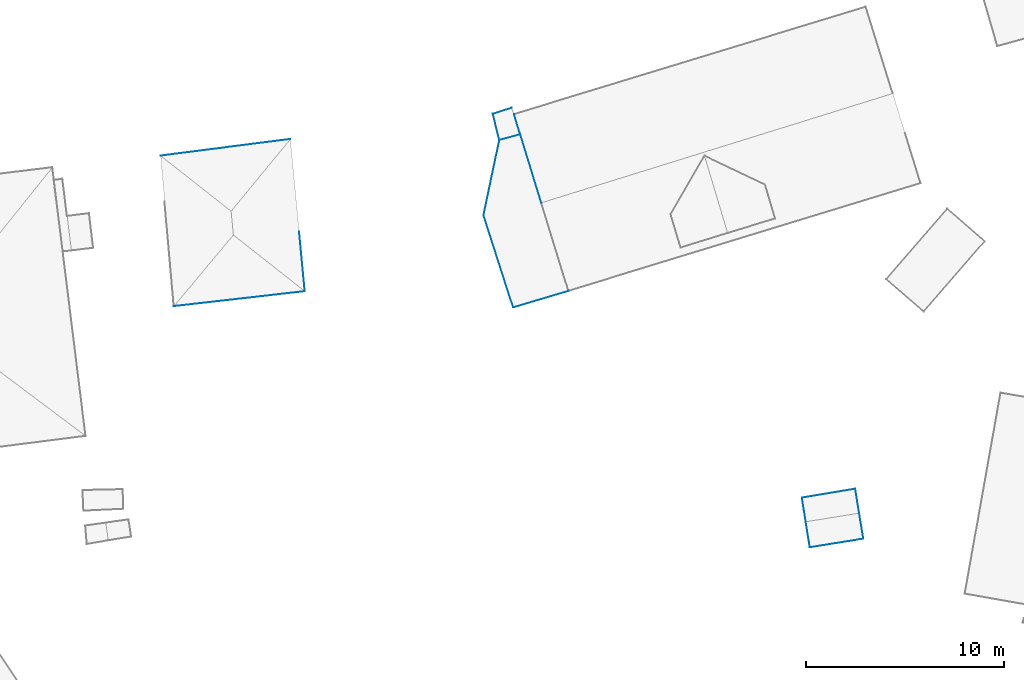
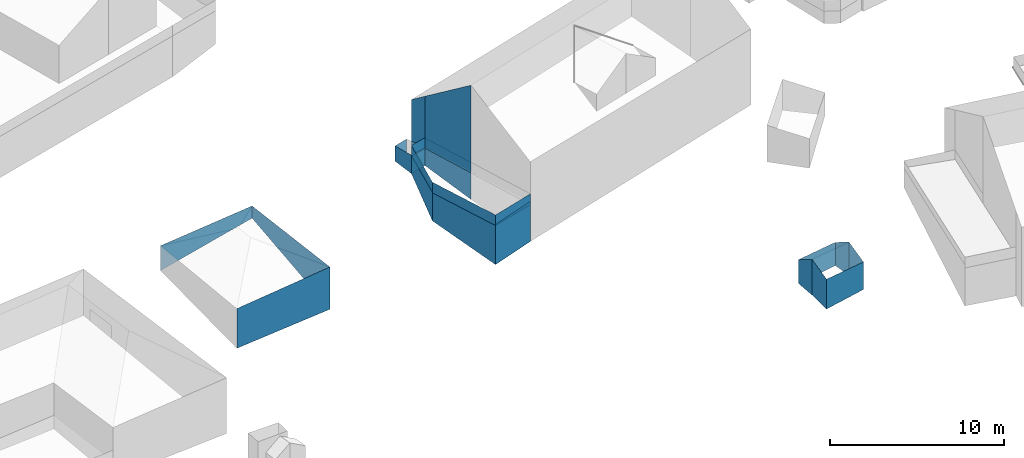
# Not in any storey, part 5 of 57: 35 walls.
"""IFC4 building model written with IfcOpenShell, lengths in metres."""

from ifc_helpers import new_model, entity, si_unit, converted_unit, origin, place, context, subcontext, project, spatial, face_set, surface_model, element, save


model = new_model("IFC4")

# Units and contexts
model_context = context("Model", 3, precision=1e-05, world=origin())
body_context = subcontext(model_context, "Body", "Model", "MODEL_VIEW")
ifc_project = project(units=[converted_unit("PLANEANGLEUNIT", "DEGREE", entity("IfcRatioMeasure", 0.0174532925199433), si_unit("PLANEANGLEUNIT", "RADIAN"), dimensions=[0, 0, 0, 0, 0, 0, 0]), si_unit("AREAUNIT", "SQUARE_METRE"), si_unit("LENGTHUNIT", "METRE")], contexts=[model_context])

# Site, building
site_placement = place(None, origin())
site = spatial("IfcSite", under=ifc_project, at=site_placement, Name="_site")
building_1_placement = place(site_placement, origin())
building_1 = spatial("IfcBuilding", under=site, at=building_1_placement, Name="_building")

# Walls
wall_1_placement = place(building_1_placement, origin())
element("IfcWall", 1, at=wall_1_placement, inside=building_1, Name="Wall", PredefinedType="NOTDEFINED", context=body_context, shape_type="SurfaceModel", body=[
    surface_model("IfcFaceBasedSurfaceModel", [(124.001, 109.289, 120.52), (122.94, 112.745, 118.02), (122.94, 112.745, 114.36), (124.001, 109.289, 114.36)], [face_set([[[0, 1, 2, 3]]])]),
])
wall_2_placement = place(building_1_placement, origin())
element("IfcWall", 2, at=wall_2_placement, inside=building_1, Name="Wall", PredefinedType="NOTDEFINED", context=body_context, shape_type="SurfaceModel", body=[
    surface_model("IfcFaceBasedSurfaceModel", [(122.623, 113.763, 114.36), (122.94, 112.745, 114.43), (122.94, 112.745, 113.157), (122.623, 113.763, 113.338)], [face_set([[[0, 1, 2, 3]]])]),
])
wall_3_placement = place(building_1_placement, origin())
element("IfcWall", 3, at=wall_3_placement, inside=building_1, Name="Wall", PredefinedType="NOTDEFINED", context=body_context, shape_type="SurfaceModel", body=[
    surface_model("IfcFaceBasedSurfaceModel", [(122.94, 112.745, 114.36), (124.001, 109.289, 114.36), (124.001, 109.289, 112.498), (122.94, 112.745, 113.157)], [face_set([[[0, 1, 2, 3]]])]),
])
wall_4_placement = place(building_1_placement, origin())
element("IfcWall", 4, at=wall_4_placement, inside=building_1, Name="Wall", PredefinedType="NOTDEFINED", context=body_context, shape_type="SurfaceModel", body=[
    surface_model("IfcFaceBasedSurfaceModel", [(121.882, 112.46, 114.43), (121.553, 113.779, 114.39), (121.553, 113.779, 113.322), (121.882, 112.46, 113.124)], [face_set([[[0, 1, 2, 3]]])]),
])
wall_5_placement = place(building_1_placement, origin())
element("IfcWall", 5, at=wall_5_placement, inside=building_1, Name="Wall", PredefinedType="NOTDEFINED", context=body_context, shape_type="SurfaceModel", body=[
    surface_model("IfcFaceBasedSurfaceModel", [(122.94, 112.745, 118.02), (122.623, 113.763, 117.28), (122.623, 113.763, 113.338), (122.94, 112.745, 113.157)], [face_set([[[0, 1, 2, 3]]])]),
])
wall_6_placement = place(building_1_placement, origin())
element("IfcWall", 6, at=wall_6_placement, inside=building_1, Name="Wall", PredefinedType="NOTDEFINED", context=body_context, shape_type="SurfaceModel", body=[
    surface_model("IfcFaceBasedSurfaceModel", [(121.553, 113.779, 114.39), (122.501, 114.087, 114.36), (122.501, 114.087, 113.396), (121.553, 113.779, 113.322)], [face_set([[[0, 1, 2, 3]]])]),
])

# Building
building_2_placement = place(site_placement, origin())
building_2 = spatial("IfcBuilding", under=site, at=building_2_placement, Name="_building")

# Walls
wall_7_placement = place(building_2_placement, origin())
element("IfcWall", 7, at=wall_7_placement, inside=building_2, Name="Wall", PredefinedType="NOTDEFINED", context=body_context, shape_type="SurfaceModel", body=[
    surface_model("IfcFaceBasedSurfaceModel", [(121.882, 112.46, 114.36), (122.94, 112.745, 114.36), (122.94, 112.745, 113.157), (121.882, 112.46, 113.124)], [face_set([[[0, 1, 2, 3]]])]),
])
wall_8_placement = place(building_2_placement, origin())
element("IfcWall", 8, at=wall_8_placement, inside=building_2, Name="Wall", PredefinedType="NOTDEFINED", context=body_context, shape_type="SurfaceModel", body=[
    surface_model("IfcFaceBasedSurfaceModel", [(121.083, 108.666, 114.36), (121.882, 112.46, 114.36), (121.882, 112.46, 113.124), (121.083, 108.666, 112.39)], [face_set([[[0, 1, 2, 3]]])]),
])
wall_9_placement = place(building_2_placement, origin())
element("IfcWall", 9, at=wall_9_placement, inside=building_2, Name="Wall", PredefinedType="NOTDEFINED", context=body_context, shape_type="SurfaceModel", body=[
    surface_model("IfcFaceBasedSurfaceModel", [(122.585, 103.998, 114.36), (121.083, 108.666, 114.36), (121.083, 108.666, 112.39), (122.585, 103.998, 111.618)], [face_set([[[0, 1, 2, 3]]])]),
])
wall_10_placement = place(building_2_placement, origin())
element("IfcWall", 10, at=wall_10_placement, inside=building_2, Name="Wall", PredefinedType="NOTDEFINED", context=body_context, shape_type="SurfaceModel", body=[
    surface_model("IfcFaceBasedSurfaceModel", [(125.376, 104.833, 114.36), (122.585, 103.998, 114.36), (122.585, 103.998, 111.618), (125.376, 104.833, 111.765)], [face_set([[[0, 1, 2, 3]]])]),
])
wall_11_placement = place(building_2_placement, origin())
element("IfcWall", 11, at=wall_11_placement, inside=building_2, Name="Wall", PredefinedType="NOTDEFINED", context=body_context, shape_type="SurfaceModel", body=[
    surface_model("IfcFaceBasedSurfaceModel", [(122.94, 112.745, 114.43), (121.882, 112.46, 114.43), (121.882, 112.46, 113.124), (122.94, 112.745, 113.157)], [face_set([[[0, 1, 2, 3]]])]),
])
wall_12_placement = place(building_2_placement, origin())
element("IfcWall", 12, at=wall_12_placement, inside=building_2, Name="Wall", PredefinedType="NOTDEFINED", context=body_context, shape_type="SurfaceModel", body=[
    surface_model("IfcFaceBasedSurfaceModel", [(122.94, 112.745, 114.43), (124.001, 109.289, 114.491), (124.001, 109.289, 112.498), (122.94, 112.745, 113.157)], [face_set([[[0, 1, 2, 3]]])]),
])
wall_13_placement = place(building_2_placement, origin())
element("IfcWall", 13, at=wall_13_placement, inside=building_2, Name="Wall", PredefinedType="NOTDEFINED", context=body_context, shape_type="SurfaceModel", body=[
    surface_model("IfcFaceBasedSurfaceModel", [(121.882, 112.46, 114.43), (122.94, 112.745, 114.43), (122.94, 112.745, 113.157), (121.882, 112.46, 113.124)], [face_set([[[0, 1, 2, 3]]])]),
])
wall_14_placement = place(building_2_placement, origin())
element("IfcWall", 14, at=wall_14_placement, inside=building_2, Name="Wall", PredefinedType="NOTDEFINED", context=body_context, shape_type="SurfaceModel", body=[
    surface_model("IfcFaceBasedSurfaceModel", [(121.083, 108.666, 114.43), (121.882, 112.46, 114.43), (121.882, 112.46, 113.124), (121.083, 108.666, 112.39)], [face_set([[[0, 1, 2, 3]]])]),
])
wall_15_placement = place(building_2_placement, origin())
element("IfcWall", 15, at=wall_15_placement, inside=building_2, Name="Wall", PredefinedType="NOTDEFINED", context=body_context, shape_type="SurfaceModel", body=[
    surface_model("IfcFaceBasedSurfaceModel", [(122.585, 103.998, 114.45), (121.083, 108.666, 114.43), (121.083, 108.666, 112.39), (122.585, 103.998, 111.618)], [face_set([[[0, 1, 2, 3]]])]),
])
wall_16_placement = place(building_2_placement, origin())
element("IfcWall", 16, at=wall_16_placement, inside=building_2, Name="Wall", PredefinedType="NOTDEFINED", context=body_context, shape_type="SurfaceModel", body=[
    surface_model("IfcFaceBasedSurfaceModel", [(125.376, 104.833, 114.57), (122.585, 103.998, 114.45), (122.585, 103.998, 111.618), (125.376, 104.833, 111.765)], [face_set([[[0, 1, 2, 3]]])]),
])
wall_17_placement = place(building_2_placement, origin())
element("IfcWall", 17, at=wall_17_placement, inside=building_2, Name="Wall", PredefinedType="NOTDEFINED", context=body_context, shape_type="SurfaceModel", body=[
    surface_model("IfcFaceBasedSurfaceModel", [(122.94, 112.745, 114.36), (121.882, 112.46, 114.36), (121.882, 112.46, 115.11), (122.94, 112.745, 115.11)], [face_set([[[0, 1, 2, 3]]])]),
])
wall_18_placement = place(building_2_placement, origin())
element("IfcWall", 18, at=wall_18_placement, inside=building_2, Name="Wall", PredefinedType="NOTDEFINED", context=body_context, shape_type="SurfaceModel", body=[
    surface_model("IfcFaceBasedSurfaceModel", [(124.001, 109.289, 114.36), (122.94, 112.745, 114.36), (122.94, 112.745, 115.11), (124.001, 109.289, 115.11)], [face_set([[[0, 1, 2, 3]]])]),
])
wall_19_placement = place(building_2_placement, origin())
element("IfcWall", 19, at=wall_19_placement, inside=building_2, Name="Wall", PredefinedType="NOTDEFINED", context=body_context, shape_type="SurfaceModel", body=[
    surface_model("IfcFaceBasedSurfaceModel", [(122.585, 103.998, 114.36), (125.376, 104.833, 114.36), (125.376, 104.833, 115.11), (122.585, 103.998, 115.11)], [face_set([[[0, 1, 2, 3]]])]),
])
wall_20_placement = place(building_2_placement, origin())
element("IfcWall", 20, at=wall_20_placement, inside=building_2, Name="Wall", PredefinedType="NOTDEFINED", context=body_context, shape_type="SurfaceModel", body=[
    surface_model("IfcFaceBasedSurfaceModel", [(121.083, 108.666, 114.36), (122.585, 103.998, 114.36), (122.585, 103.998, 115.11), (121.083, 108.666, 115.11)], [face_set([[[0, 1, 2, 3]]])]),
])
wall_21_placement = place(building_2_placement, origin())
element("IfcWall", 21, at=wall_21_placement, inside=building_2, Name="Wall", PredefinedType="NOTDEFINED", context=body_context, shape_type="SurfaceModel", body=[
    surface_model("IfcFaceBasedSurfaceModel", [(121.882, 112.46, 114.36), (121.083, 108.666, 114.36), (121.083, 108.666, 115.11), (121.882, 112.46, 115.11)], [face_set([[[0, 1, 2, 3]]])]),
])
wall_22_placement = place(building_2_placement, origin())
element("IfcWall", 22, at=wall_22_placement, inside=building_2, Name="Wall", PredefinedType="NOTDEFINED", context=body_context, shape_type="SurfaceModel", body=[
    surface_model("IfcFaceBasedSurfaceModel", [(122.94, 112.745, 114.36), (121.882, 112.46, 114.36), (121.882, 112.46, 115.11), (122.94, 112.745, 115.11)], [face_set([[[0, 1, 2, 3]]])]),
])
wall_23_placement = place(building_2_placement, origin())
element("IfcWall", 23, at=wall_23_placement, inside=building_2, Name="Wall", PredefinedType="NOTDEFINED", context=body_context, shape_type="SurfaceModel", body=[
    surface_model("IfcFaceBasedSurfaceModel", [(124.001, 109.289, 114.36), (122.94, 112.745, 114.36), (122.94, 112.745, 115.11), (124.001, 109.289, 115.11)], [face_set([[[0, 1, 2, 3]]])]),
])
wall_24_placement = place(building_2_placement, origin())
element("IfcWall", 24, at=wall_24_placement, inside=building_2, Name="Wall", PredefinedType="NOTDEFINED", context=body_context, shape_type="SurfaceModel", body=[
    surface_model("IfcFaceBasedSurfaceModel", [(122.585, 103.998, 114.36), (125.376, 104.833, 114.36), (125.376, 104.833, 115.11), (122.585, 103.998, 115.11)], [face_set([[[0, 1, 2, 3]]])]),
])
wall_25_placement = place(building_2_placement, origin())
element("IfcWall", 25, at=wall_25_placement, inside=building_2, Name="Wall", PredefinedType="NOTDEFINED", context=body_context, shape_type="SurfaceModel", body=[
    surface_model("IfcFaceBasedSurfaceModel", [(121.083, 108.666, 114.36), (122.585, 103.998, 114.36), (122.585, 103.998, 115.11), (121.083, 108.666, 115.11)], [face_set([[[0, 1, 2, 3]]])]),
])
wall_26_placement = place(building_2_placement, origin())
element("IfcWall", 26, at=wall_26_placement, inside=building_2, Name="Wall", PredefinedType="NOTDEFINED", context=body_context, shape_type="SurfaceModel", body=[
    surface_model("IfcFaceBasedSurfaceModel", [(121.882, 112.46, 114.36), (121.083, 108.666, 114.36), (121.083, 108.666, 115.11), (121.882, 112.46, 115.11)], [face_set([[[0, 1, 2, 3]]])]),
])

# Building
building_3_placement = place(site_placement, origin())
building_3 = spatial("IfcBuilding", under=site, at=building_3_placement, Name="_building")

# Walls
wall_27_placement = place(building_3_placement, origin())
element("IfcWall", 27, at=wall_27_placement, inside=building_3, Name="Wall", PredefinedType="NOTDEFINED", context=body_context, shape_type="SurfaceModel", body=[
    surface_model("IfcFaceBasedSurfaceModel", [(139.871, 94.828, 112.7), (140.072, 93.603, 113.38), (140.072, 93.603, 111.021), (139.871, 94.828, 111.063)], [face_set([[[0, 1, 2, 3]]])]),
])
wall_28_placement = place(building_3_placement, origin())
element("IfcWall", 28, at=wall_28_placement, inside=building_3, Name="Wall", PredefinedType="NOTDEFINED", context=body_context, shape_type="SurfaceModel", body=[
    surface_model("IfcFaceBasedSurfaceModel", [(137.179, 94.381, 112.7), (139.871, 94.828, 112.7), (139.871, 94.828, 111.063), (137.179, 94.381, 111.003)], [face_set([[[0, 1, 2, 3]]])]),
])
wall_29_placement = place(building_3_placement, origin())
element("IfcWall", 29, at=wall_29_placement, inside=building_3, Name="Wall", PredefinedType="NOTDEFINED", context=body_context, shape_type="SurfaceModel", body=[
    surface_model("IfcFaceBasedSurfaceModel", [(137.37, 93.166, 113.38), (137.179, 94.381, 112.7), (137.179, 94.381, 111.003), (137.37, 93.166, 110.869)], [face_set([[[0, 1, 2, 3]]])]),
])
wall_30_placement = place(building_3_placement, origin())
element("IfcWall", 30, at=wall_30_placement, inside=building_3, Name="Wall", PredefinedType="NOTDEFINED", context=body_context, shape_type="SurfaceModel", body=[
    surface_model("IfcFaceBasedSurfaceModel", [(137.58, 91.87, 112.7), (137.37, 93.166, 113.38), (137.37, 93.166, 110.869), (137.58, 91.87, 110.603)], [face_set([[[0, 1, 2, 3]]])]),
])
wall_31_placement = place(building_3_placement, origin())
element("IfcWall", 31, at=wall_31_placement, inside=building_3, Name="Wall", PredefinedType="NOTDEFINED", context=body_context, shape_type="SurfaceModel", body=[
    surface_model("IfcFaceBasedSurfaceModel", [(140.282, 92.307, 112.7), (137.58, 91.87, 112.7), (137.58, 91.87, 110.603), (140.282, 92.307, 110.765)], [face_set([[[0, 1, 2, 3]]])]),
])
wall_32_placement = place(building_3_placement, origin())
element("IfcWall", 32, at=wall_32_placement, inside=building_3, Name="Wall", PredefinedType="NOTDEFINED", context=body_context, shape_type="SurfaceModel", body=[
    surface_model("IfcFaceBasedSurfaceModel", [(140.072, 93.603, 113.38), (140.282, 92.307, 112.7), (140.282, 92.307, 110.765), (140.072, 93.603, 111.021)], [face_set([[[0, 1, 2, 3]]])]),
])

# Building
building_4_placement = place(site_placement, origin())
building_4 = spatial("IfcBuilding", under=site, at=building_4_placement, Name="_building")

# Walls
wall_33_placement = place(building_4_placement, origin())
element("IfcWall", 33, at=wall_33_placement, inside=building_4, Name="Wall", PredefinedType="NOTDEFINED", context=body_context, shape_type="SurfaceModel", body=[
    surface_model("IfcFaceBasedSurfaceModel", [(104.753, 111.67, 114.54), (111.317, 112.507, 114.53), (111.317, 112.507, 113.665), (104.753, 111.67, 112.791)], [face_set([[[0, 1, 2, 3]]])]),
])
wall_34_placement = place(building_4_placement, origin())
element("IfcWall", 34, at=wall_34_placement, inside=building_4, Name="Wall", PredefinedType="NOTDEFINED", context=body_context, shape_type="SurfaceModel", body=[
    surface_model("IfcFaceBasedSurfaceModel", [(112.047, 104.815, 114.65), (105.426, 104.06, 114.5), (105.426, 104.06, 111.708), (112.047, 104.815, 111.679)], [face_set([[[0, 1, 2, 3]]])]),
])
wall_35_placement = place(building_4_placement, origin())
element("IfcWall", 35, at=wall_35_placement, inside=building_4, Name="Wall", PredefinedType="NOTDEFINED", context=body_context, shape_type="SurfaceModel", body=[
    surface_model("IfcFaceBasedSurfaceModel", [(111.317, 112.507, 114.53), (112.047, 104.815, 114.65), (112.047, 104.815, 111.679), (111.317, 112.507, 113.665)], [face_set([[[0, 1, 2, 3]]])]),
])

save(model, "model.ifc")
